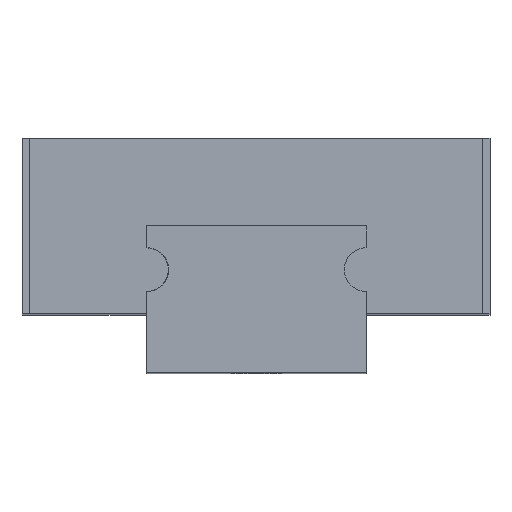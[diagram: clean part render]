
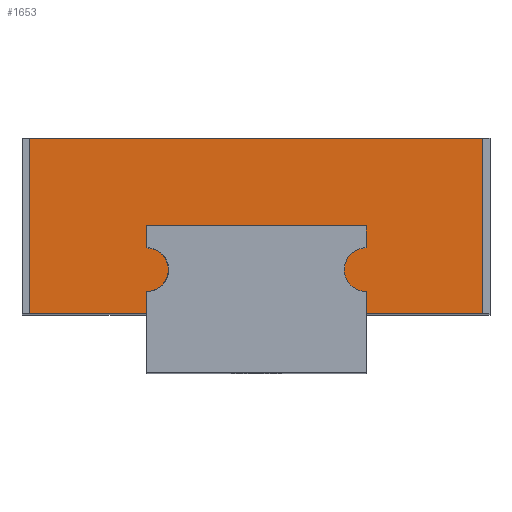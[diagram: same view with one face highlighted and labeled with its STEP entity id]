
A CAD part, top view. The second image highlights one B-rep face of the part: STEP entity #1653.
In plain terms, the highlighted planar face has unit normal (0, 0, 1).
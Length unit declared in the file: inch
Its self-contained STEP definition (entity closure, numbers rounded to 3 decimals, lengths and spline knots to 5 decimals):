
#54 = CARTESIAN_POINT ( 'NONE',  ( 0., 0.47244, 0.29528 ) ) ;
#61 = ORIENTED_EDGE ( 'NONE', *, *, #511, .F. ) ;
#113 = LINE ( 'NONE', #1965, #1449 ) ;
#126 = EDGE_CURVE ( 'NONE', #2116, #1583, #2220, .T. ) ;
#133 = VERTEX_POINT ( 'NONE', #2209 ) ;
#136 = ORIENTED_EDGE ( 'NONE', *, *, #967, .T. ) ;
#139 = CARTESIAN_POINT ( 'NONE',  ( 0.33465, 0., 0.29528 ) ) ;
#143 = DIRECTION ( 'NONE',  ( 0., 0., 1. ) ) ;
#150 = CARTESIAN_POINT ( 'NONE',  ( 0.9252, 0.11811, 0.29528 ) ) ;
#151 = CARTESIAN_POINT ( 'NONE',  ( 1.24016, 0.47244, 0.29528 ) ) ;
#170 = VECTOR ( 'NONE', #733, 39.37008 ) ;
#174 = DIRECTION ( 'NONE',  ( 1., 0., 0. ) ) ;
#203 = CIRCLE ( 'NONE', #2075, 0.05906 ) ;
#210 = CARTESIAN_POINT ( 'NONE',  ( 0.01969, 0., 0.29528 ) ) ;
#229 = VERTEX_POINT ( 'NONE', #151 ) ;
#262 = ORIENTED_EDGE ( 'NONE', *, *, #2083, .T. ) ;
#265 = ORIENTED_EDGE ( 'NONE', *, *, #2138, .T. ) ;
#294 = LINE ( 'NONE', #1056, #1926 ) ;
#297 = EDGE_CURVE ( 'NONE', #2140, #1361, #113, .T. ) ;
#330 = DIRECTION ( 'NONE',  ( 1., 0., 0. ) ) ;
#353 = VECTOR ( 'NONE', #613, 39.37008 ) ;
#363 = EDGE_CURVE ( 'NONE', #229, #133, #1845, .T. ) ;
#388 = ORIENTED_EDGE ( 'NONE', *, *, #1028, .T. ) ;
#490 = AXIS2_PLACEMENT_3D ( 'NONE', #1404, #2120, #2103 ) ;
#511 = EDGE_CURVE ( 'NONE', #1306, #133, #2076, .T. ) ;
#579 = CARTESIAN_POINT ( 'NONE',  ( 0.9252, 0.17717, 0.29528 ) ) ;
#582 = DIRECTION ( 'NONE',  ( -1., 0., 0. ) ) ;
#595 = DIRECTION ( 'NONE',  ( 0., -1., 0. ) ) ;
#609 = VECTOR ( 'NONE', #582, 39.37008 ) ;
#611 = ORIENTED_EDGE ( 'NONE', *, *, #297, .T. ) ;
#613 = DIRECTION ( 'NONE',  ( 0., 1., 0. ) ) ;
#615 = VECTOR ( 'NONE', #595, 39.37008 ) ;
#624 = DIRECTION ( 'NONE',  ( 1., 0., 0. ) ) ;
#681 = EDGE_CURVE ( 'NONE', #1361, #867, #203, .T. ) ;
#699 = CARTESIAN_POINT ( 'NONE',  ( 0., 0., 0.29528 ) ) ;
#706 = DIRECTION ( 'NONE',  ( 1., 0., 0. ) ) ;
#733 = DIRECTION ( 'NONE',  ( 1., 0., 0. ) ) ;
#801 = DIRECTION ( 'NONE',  ( 0., 0., 1. ) ) ;
#856 = LINE ( 'NONE', #1690, #1271 ) ;
#867 = VERTEX_POINT ( 'NONE', #2146 ) ;
#894 = VERTEX_POINT ( 'NONE', #2278 ) ;
#904 = PLANE ( 'NONE',  #490 ) ;
#921 = VERTEX_POINT ( 'NONE', #1755 ) ;
#934 = EDGE_CURVE ( 'NONE', #1583, #1713, #1266, .T. ) ;
#947 = LINE ( 'NONE', #1682, #1307 ) ;
#953 = CARTESIAN_POINT ( 'NONE',  ( 0.33465, 0., 0.29528 ) ) ;
#967 = EDGE_CURVE ( 'NONE', #894, #2140, #1236, .T. ) ;
#988 = CARTESIAN_POINT ( 'NONE',  ( 0.9252, 0.23622, 0.29528 ) ) ;
#1028 = EDGE_CURVE ( 'NONE', #921, #1155, #1104, .T. ) ;
#1056 = CARTESIAN_POINT ( 'NONE',  ( 0., 0., 0.29528 ) ) ;
#1063 = AXIS2_PLACEMENT_3D ( 'NONE', #2112, #143, #330 ) ;
#1065 = CARTESIAN_POINT ( 'NONE',  ( 0.3937, 0.11811, 0.29528 ) ) ;
#1078 = EDGE_CURVE ( 'NONE', #229, #1155, #1543, .T. ) ;
#1104 = LINE ( 'NONE', #699, #170 ) ;
#1105 = CARTESIAN_POINT ( 'NONE',  ( 1.24016, 0., 0.29528 ) ) ;
#1131 = DIRECTION ( 'NONE',  ( 0., -1., 0. ) ) ;
#1134 = AXIS2_PLACEMENT_3D ( 'NONE', #1681, #801, #624 ) ;
#1155 = VERTEX_POINT ( 'NONE', #2006 ) ;
#1236 = LINE ( 'NONE', #1596, #2213 ) ;
#1240 = DIRECTION ( 'NONE',  ( 1., 0., 0. ) ) ;
#1266 = CIRCLE ( 'NONE', #1063, 0.05906 ) ;
#1271 = VECTOR ( 'NONE', #2043, 39.37008 ) ;
#1306 = VERTEX_POINT ( 'NONE', #1782 ) ;
#1307 = VECTOR ( 'NONE', #1351, 39.37008 ) ;
#1334 = CARTESIAN_POINT ( 'NONE',  ( 0.33465, 0.05906, 0.29528 ) ) ;
#1351 = DIRECTION ( 'NONE',  ( 0., 1., 0. ) ) ;
#1361 = VERTEX_POINT ( 'NONE', #579 ) ;
#1362 = CARTESIAN_POINT ( 'NONE',  ( 0.33465, 0.17717, 0.29528 ) ) ;
#1366 = ORIENTED_EDGE ( 'NONE', *, *, #934, .T. ) ;
#1370 = ORIENTED_EDGE ( 'NONE', *, *, #2133, .T. ) ;
#1398 = ORIENTED_EDGE ( 'NONE', *, *, #363, .T. ) ;
#1404 = CARTESIAN_POINT ( 'NONE',  ( 0., 0., 0.29528 ) ) ;
#1449 = VECTOR ( 'NONE', #1131, 39.37008 ) ;
#1543 = LINE ( 'NONE', #1105, #615 ) ;
#1583 = VERTEX_POINT ( 'NONE', #1065 ) ;
#1596 = CARTESIAN_POINT ( 'NONE',  ( 0., 0.23622, 0.29528 ) ) ;
#1617 = VECTOR ( 'NONE', #1774, 39.37008 ) ;
#1641 = EDGE_CURVE ( 'NONE', #1306, #1905, #294, .T. ) ;
#1653 = ADVANCED_FACE ( 'NONE', ( #1659 ), #904, .T. ) ;
#1659 = FACE_OUTER_BOUND ( 'NONE', #2300, .T. ) ;
#1681 = CARTESIAN_POINT ( 'NONE',  ( 0.33465, 0.11811, 0.29528 ) ) ;
#1682 = CARTESIAN_POINT ( 'NONE',  ( 0.33465, 0., 0.29528 ) ) ;
#1690 = CARTESIAN_POINT ( 'NONE',  ( 0.9252, 0., 0.29528 ) ) ;
#1713 = VERTEX_POINT ( 'NONE', #1362 ) ;
#1755 = CARTESIAN_POINT ( 'NONE',  ( 0.9252, 0., 0.29528 ) ) ;
#1758 = LINE ( 'NONE', #953, #353 ) ;
#1774 = DIRECTION ( 'NONE',  ( 0., 1., 0. ) ) ;
#1782 = CARTESIAN_POINT ( 'NONE',  ( 0.01969, 0., 0.29528 ) ) ;
#1793 = ORIENTED_EDGE ( 'NONE', *, *, #126, .T. ) ;
#1845 = LINE ( 'NONE', #54, #609 ) ;
#1905 = VERTEX_POINT ( 'NONE', #139 ) ;
#1907 = DIRECTION ( 'NONE',  ( 0., 0., 1. ) ) ;
#1926 = VECTOR ( 'NONE', #1240, 39.37008 ) ;
#1944 = ORIENTED_EDGE ( 'NONE', *, *, #1078, .F. ) ;
#1965 = CARTESIAN_POINT ( 'NONE',  ( 0.9252, 0., 0.29528 ) ) ;
#2006 = CARTESIAN_POINT ( 'NONE',  ( 1.24016, 0., 0.29528 ) ) ;
#2007 = ORIENTED_EDGE ( 'NONE', *, *, #1641, .T. ) ;
#2043 = DIRECTION ( 'NONE',  ( 0., -1., 0. ) ) ;
#2075 = AXIS2_PLACEMENT_3D ( 'NONE', #150, #1907, #706 ) ;
#2076 = LINE ( 'NONE', #210, #1617 ) ;
#2083 = EDGE_CURVE ( 'NONE', #1713, #894, #1758, .T. ) ;
#2097 = ORIENTED_EDGE ( 'NONE', *, *, #681, .T. ) ;
#2103 = DIRECTION ( 'NONE',  ( 1., 0., 0. ) ) ;
#2112 = CARTESIAN_POINT ( 'NONE',  ( 0.33465, 0.11811, 0.29528 ) ) ;
#2116 = VERTEX_POINT ( 'NONE', #1334 ) ;
#2120 = DIRECTION ( 'NONE',  ( 0., 0., 1. ) ) ;
#2133 = EDGE_CURVE ( 'NONE', #867, #921, #856, .T. ) ;
#2138 = EDGE_CURVE ( 'NONE', #1905, #2116, #947, .T. ) ;
#2140 = VERTEX_POINT ( 'NONE', #988 ) ;
#2146 = CARTESIAN_POINT ( 'NONE',  ( 0.9252, 0.05906, 0.29528 ) ) ;
#2209 = CARTESIAN_POINT ( 'NONE',  ( 0.01969, 0.47244, 0.29528 ) ) ;
#2213 = VECTOR ( 'NONE', #174, 39.37008 ) ;
#2220 = CIRCLE ( 'NONE', #1134, 0.05906 ) ;
#2278 = CARTESIAN_POINT ( 'NONE',  ( 0.33465, 0.23622, 0.29528 ) ) ;
#2300 = EDGE_LOOP ( 'NONE', ( #61, #2007, #265, #1793, #1366, #262, #136, #611, #2097, #1370, #388, #1944, #1398 ) ) ;
